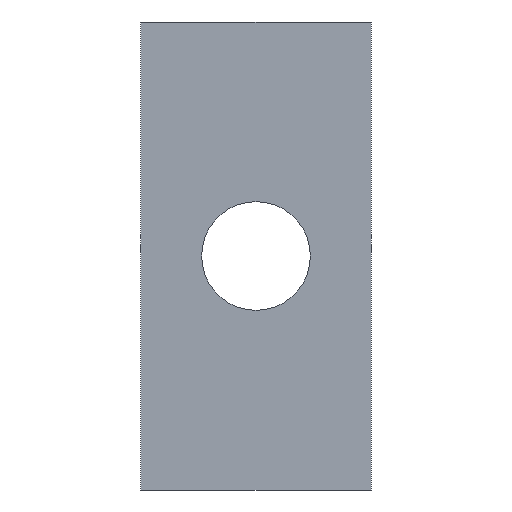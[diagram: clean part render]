
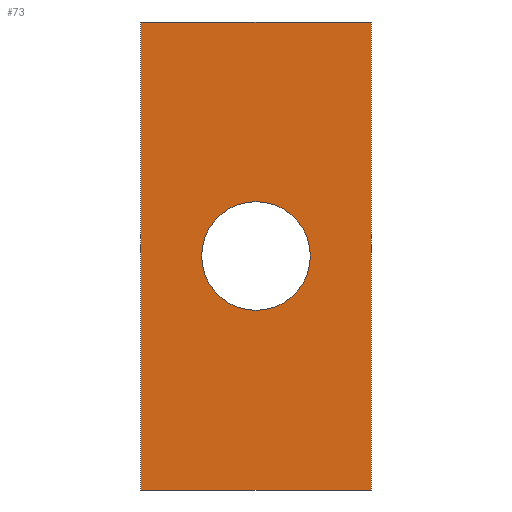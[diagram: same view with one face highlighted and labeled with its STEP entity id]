
A CAD part, front view. The second image highlights one B-rep face of the part: STEP entity #73.
In plain terms, the highlighted planar face has unit normal (0, -1, 0).
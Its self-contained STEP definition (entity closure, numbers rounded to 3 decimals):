
#1 = VERTEX_POINT ( 'NONE', #12 ) ;
#9 = EDGE_CURVE ( 'NONE', #44, #237, #89, .T. ) ;
#12 = CARTESIAN_POINT ( 'NONE',  ( 97., 0., -197. ) ) ;
#16 = AXIS2_PLACEMENT_3D ( 'NONE', #128, #150, #206 ) ;
#18 = ORIENTED_EDGE ( 'NONE', *, *, #202, .F. ) ;
#26 = EDGE_CURVE ( 'NONE', #276, #144, #215, .T. ) ;
#29 = CARTESIAN_POINT ( 'NONE',  ( -97., 0., 197. ) ) ;
#30 = DIRECTION ( 'NONE',  ( 0., 1., 0. ) ) ;
#39 = ORIENTED_EDGE ( 'NONE', *, *, #145, .F. ) ;
#44 = VERTEX_POINT ( 'NONE', #272 ) ;
#45 = EDGE_LOOP ( 'NONE', ( #198, #18, #129, #39 ) ) ;
#47 = EDGE_CURVE ( 'NONE', #144, #276, #264, .T. ) ;
#52 = DIRECTION ( 'NONE',  ( 0., 0., 1. ) ) ;
#57 = CARTESIAN_POINT ( 'NONE',  ( 97., 0., 197. ) ) ;
#58 = FACE_OUTER_BOUND ( 'NONE', #45, .T. ) ;
#59 = CARTESIAN_POINT ( 'NONE',  ( -97., 0., 197. ) ) ;
#62 = VECTOR ( 'NONE', #173, 1000. ) ;
#69 = LINE ( 'NONE', #157, #62 ) ;
#73 = ADVANCED_FACE ( 'NONE', ( #58, #203 ), #253, .T. ) ;
#78 = DIRECTION ( 'NONE',  ( 0., 1., 0. ) ) ;
#80 = CARTESIAN_POINT ( 'NONE',  ( -97., 0., 197. ) ) ;
#81 = LINE ( 'NONE', #191, #251 ) ;
#82 = ORIENTED_EDGE ( 'NONE', *, *, #26, .T. ) ;
#89 = LINE ( 'NONE', #29, #183 ) ;
#100 = CARTESIAN_POINT ( 'NONE',  ( 0., 0., 45.75 ) ) ;
#123 = VERTEX_POINT ( 'NONE', #57 ) ;
#128 = CARTESIAN_POINT ( 'NONE',  ( 0., 0., 0. ) ) ;
#129 = ORIENTED_EDGE ( 'NONE', *, *, #9, .F. ) ;
#142 = DIRECTION ( 'NONE',  ( 0., 0., 1. ) ) ;
#144 = VERTEX_POINT ( 'NONE', #273 ) ;
#145 = EDGE_CURVE ( 'NONE', #1, #44, #81, .T. ) ;
#149 = DIRECTION ( 'NONE',  ( 1., 0., 0. ) ) ;
#150 = DIRECTION ( 'NONE',  ( 0., -1., 0. ) ) ;
#153 = DIRECTION ( 'NONE',  ( -1., 0., 0. ) ) ;
#155 = VECTOR ( 'NONE', #149, 1000. ) ;
#157 = CARTESIAN_POINT ( 'NONE',  ( 97., 0., 197. ) ) ;
#160 = AXIS2_PLACEMENT_3D ( 'NONE', #205, #30, #210 ) ;
#170 = CARTESIAN_POINT ( 'NONE',  ( 0., 0., 0. ) ) ;
#173 = DIRECTION ( 'NONE',  ( 0., 0., -1. ) ) ;
#183 = VECTOR ( 'NONE', #142, 1000. ) ;
#191 = CARTESIAN_POINT ( 'NONE',  ( -97., 0., -197. ) ) ;
#198 = ORIENTED_EDGE ( 'NONE', *, *, #233, .F. ) ;
#202 = EDGE_CURVE ( 'NONE', #237, #123, #234, .T. ) ;
#203 = FACE_BOUND ( 'NONE', #223, .T. ) ;
#205 = CARTESIAN_POINT ( 'NONE',  ( 0., 0., 0. ) ) ;
#206 = DIRECTION ( 'NONE',  ( 0., 0., -1. ) ) ;
#210 = DIRECTION ( 'NONE',  ( 0., 0., 1. ) ) ;
#215 = CIRCLE ( 'NONE', #261, 45.75 ) ;
#223 = EDGE_LOOP ( 'NONE', ( #247, #82 ) ) ;
#233 = EDGE_CURVE ( 'NONE', #123, #1, #69, .T. ) ;
#234 = LINE ( 'NONE', #59, #155 ) ;
#237 = VERTEX_POINT ( 'NONE', #80 ) ;
#247 = ORIENTED_EDGE ( 'NONE', *, *, #47, .T. ) ;
#251 = VECTOR ( 'NONE', #153, 1000. ) ;
#253 = PLANE ( 'NONE',  #16 ) ;
#261 = AXIS2_PLACEMENT_3D ( 'NONE', #170, #78, #52 ) ;
#264 = CIRCLE ( 'NONE', #160, 45.75 ) ;
#272 = CARTESIAN_POINT ( 'NONE',  ( -97., 0., -197. ) ) ;
#273 = CARTESIAN_POINT ( 'NONE',  ( 0., 0., -45.75 ) ) ;
#276 = VERTEX_POINT ( 'NONE', #100 ) ;
